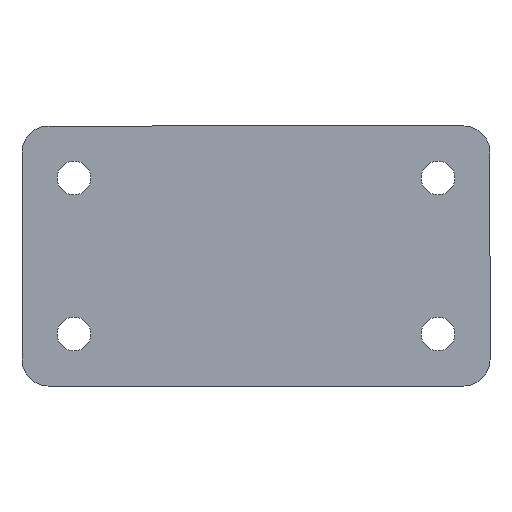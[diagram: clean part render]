
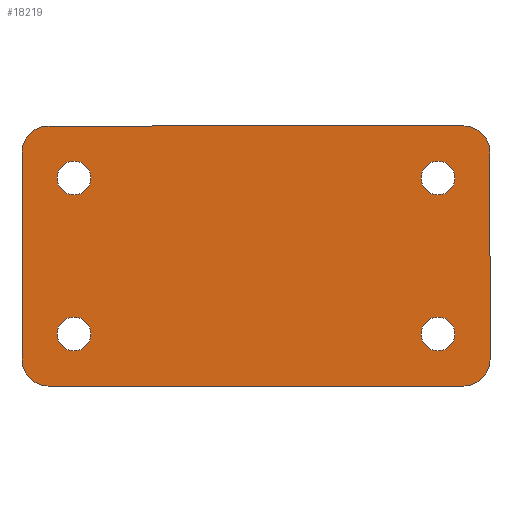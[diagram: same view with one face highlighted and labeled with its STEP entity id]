
A CAD part, front view. The second image highlights one B-rep face of the part: STEP entity #18219.
In plain terms, the highlighted planar face has unit normal (0, -1, 0).
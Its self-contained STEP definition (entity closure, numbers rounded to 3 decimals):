
#303 = CARTESIAN_POINT ( 'NONE',  ( 41.695, -121.715, 29.867 ) ) ;
#698 = LINE ( 'NONE', #819, #3264 ) ;
#757 = CIRCLE ( 'NONE', #7958, 10. ) ;
#774 = EDGE_CURVE ( 'NONE', #15452, #7022, #13302, .T. ) ;
#812 = CARTESIAN_POINT ( 'NONE',  ( 51.695, -121.715, 39.867 ) ) ;
#819 = CARTESIAN_POINT ( 'NONE',  ( 61.695, -121.715, 49.867 ) ) ;
#822 = DIRECTION ( 'NONE',  ( 1., 0., 0. ) ) ;
#850 = DIRECTION ( 'NONE',  ( 0., 1., 0. ) ) ;
#929 = DIRECTION ( 'NONE',  ( 0., -1., 0. ) ) ;
#987 = CIRCLE ( 'NONE', #13167, 6.5 ) ;
#1179 = CARTESIAN_POINT ( 'NONE',  ( -108.305, -121.715, 49.867 ) ) ;
#2025 = CIRCLE ( 'NONE', #13845, 6.5 ) ;
#2273 = DIRECTION ( 'NONE',  ( 1., 0., 0. ) ) ;
#2564 = VERTEX_POINT ( 'NONE', #16853 ) ;
#2694 = EDGE_LOOP ( 'NONE', ( #5686, #12026 ) ) ;
#2775 = CARTESIAN_POINT ( 'NONE',  ( 35.195, -121.715, 29.867 ) ) ;
#2970 = AXIS2_PLACEMENT_3D ( 'NONE', #24339, #24252, #3794 ) ;
#3116 = ORIENTED_EDGE ( 'NONE', *, *, #6583, .T. ) ;
#3247 = CIRCLE ( 'NONE', #10228, 6.5 ) ;
#3264 = VECTOR ( 'NONE', #13158, 1000. ) ;
#3356 = AXIS2_PLACEMENT_3D ( 'NONE', #14457, #6218, #10369 ) ;
#3618 = VERTEX_POINT ( 'NONE', #26019 ) ;
#3794 = DIRECTION ( 'NONE',  ( 1., 0., 0. ) ) ;
#3913 = CARTESIAN_POINT ( 'NONE',  ( -98.305, -121.715, -30.133 ) ) ;
#4245 = DIRECTION ( 'NONE',  ( 1., 0., 0. ) ) ;
#4314 = CARTESIAN_POINT ( 'NONE',  ( -98.305, -121.715, 29.867 ) ) ;
#4567 = CARTESIAN_POINT ( 'NONE',  ( 61.695, -121.715, -40.133 ) ) ;
#4760 = CARTESIAN_POINT ( 'NONE',  ( -118.305, -121.715, -40.133 ) ) ;
#4780 = FACE_BOUND ( 'NONE', #2694, .T. ) ;
#5528 = EDGE_CURVE ( 'NONE', #16047, #7555, #14682, .T. ) ;
#5627 = CARTESIAN_POINT ( 'NONE',  ( -118.305, -121.715, 39.867 ) ) ;
#5686 = ORIENTED_EDGE ( 'NONE', *, *, #11937, .T. ) ;
#5980 = EDGE_CURVE ( 'NONE', #21219, #21212, #2025, .T. ) ;
#6058 = ORIENTED_EDGE ( 'NONE', *, *, #7343, .T. ) ;
#6193 = CARTESIAN_POINT ( 'NONE',  ( 51.695, -121.715, 49.867 ) ) ;
#6218 = DIRECTION ( 'NONE',  ( 0., 1., 0. ) ) ;
#6282 = EDGE_CURVE ( 'NONE', #16047, #23813, #18814, .T. ) ;
#6384 = CARTESIAN_POINT ( 'NONE',  ( 41.695, -121.715, 29.867 ) ) ;
#6413 = VERTEX_POINT ( 'NONE', #2775 ) ;
#6551 = AXIS2_PLACEMENT_3D ( 'NONE', #812, #7175, #25741 ) ;
#6583 = EDGE_CURVE ( 'NONE', #8487, #3618, #12688, .T. ) ;
#6646 = EDGE_LOOP ( 'NONE', ( #25039, #6058, #22540, #6974, #23497, #26712, #6732, #11752 ) ) ;
#6732 = ORIENTED_EDGE ( 'NONE', *, *, #14580, .F. ) ;
#6833 = CARTESIAN_POINT ( 'NONE',  ( -118.305, -121.715, 49.867 ) ) ;
#6957 = LINE ( 'NONE', #6833, #22766 ) ;
#6974 = ORIENTED_EDGE ( 'NONE', *, *, #24036, .T. ) ;
#7022 = VERTEX_POINT ( 'NONE', #6193 ) ;
#7048 = CARTESIAN_POINT ( 'NONE',  ( -104.805, -121.715, -30.133 ) ) ;
#7175 = DIRECTION ( 'NONE',  ( 0., -1., 0. ) ) ;
#7204 = DIRECTION ( 'NONE',  ( 1., 0., 0. ) ) ;
#7261 = VERTEX_POINT ( 'NONE', #8515 ) ;
#7317 = CARTESIAN_POINT ( 'NONE',  ( -108.305, -121.715, 39.867 ) ) ;
#7343 = EDGE_CURVE ( 'NONE', #15452, #21062, #757, .T. ) ;
#7555 = VERTEX_POINT ( 'NONE', #4567 ) ;
#7958 = AXIS2_PLACEMENT_3D ( 'NONE', #7317, #23907, #21729 ) ;
#7965 = DIRECTION ( 'NONE',  ( 1., 0., 0. ) ) ;
#8180 = DIRECTION ( 'NONE',  ( 0., 1., 0. ) ) ;
#8487 = VERTEX_POINT ( 'NONE', #7048 ) ;
#8515 = CARTESIAN_POINT ( 'NONE',  ( 48.195, -121.715, 29.867 ) ) ;
#8610 = VERTEX_POINT ( 'NONE', #17775 ) ;
#9039 = CARTESIAN_POINT ( 'NONE',  ( -108.305, -121.715, -50.133 ) ) ;
#9610 = FACE_BOUND ( 'NONE', #12101, .T. ) ;
#9678 = CIRCLE ( 'NONE', #11565, 6.5 ) ;
#9886 = EDGE_CURVE ( 'NONE', #21212, #21219, #3247, .T. ) ;
#10228 = AXIS2_PLACEMENT_3D ( 'NONE', #25338, #850, #13198 ) ;
#10369 = DIRECTION ( 'NONE',  ( 1., 0., 0. ) ) ;
#10622 = CIRCLE ( 'NONE', #3356, 6.5 ) ;
#11565 = AXIS2_PLACEMENT_3D ( 'NONE', #6384, #8180, #22606 ) ;
#11752 = ORIENTED_EDGE ( 'NONE', *, *, #20756, .T. ) ;
#11882 = EDGE_LOOP ( 'NONE', ( #14386, #16090 ) ) ;
#11934 = DIRECTION ( 'NONE',  ( 0., 1., 0. ) ) ;
#11937 = EDGE_CURVE ( 'NONE', #8610, #18284, #10622, .T. ) ;
#11992 = EDGE_CURVE ( 'NONE', #6413, #7261, #20929, .T. ) ;
#12026 = ORIENTED_EDGE ( 'NONE', *, *, #13000, .T. ) ;
#12101 = EDGE_LOOP ( 'NONE', ( #12212, #23843 ) ) ;
#12212 = ORIENTED_EDGE ( 'NONE', *, *, #20596, .T. ) ;
#12282 = CIRCLE ( 'NONE', #6551, 10. ) ;
#12580 = CARTESIAN_POINT ( 'NONE',  ( -104.805, -121.715, 29.867 ) ) ;
#12688 = CIRCLE ( 'NONE', #17962, 6.5 ) ;
#13000 = EDGE_CURVE ( 'NONE', #18284, #8610, #16251, .T. ) ;
#13158 = DIRECTION ( 'NONE',  ( 0., 0., -1. ) ) ;
#13167 = AXIS2_PLACEMENT_3D ( 'NONE', #22805, #22904, #4245 ) ;
#13198 = DIRECTION ( 'NONE',  ( 1., 0., 0. ) ) ;
#13302 = LINE ( 'NONE', #14709, #20373 ) ;
#13532 = FACE_OUTER_BOUND ( 'NONE', #6646, .T. ) ;
#13845 = AXIS2_PLACEMENT_3D ( 'NONE', #4314, #14548, #22788 ) ;
#13951 = DIRECTION ( 'NONE',  ( 1., 0., 0. ) ) ;
#14075 = AXIS2_PLACEMENT_3D ( 'NONE', #303, #18927, #2273 ) ;
#14352 = DIRECTION ( 'NONE',  ( 0., 1., 0. ) ) ;
#14386 = ORIENTED_EDGE ( 'NONE', *, *, #9886, .T. ) ;
#14457 = CARTESIAN_POINT ( 'NONE',  ( 41.695, -121.715, -30.133 ) ) ;
#14548 = DIRECTION ( 'NONE',  ( 0., 1., 0. ) ) ;
#14580 = EDGE_CURVE ( 'NONE', #2564, #7555, #698, .T. ) ;
#14682 = CIRCLE ( 'NONE', #21538, 10. ) ;
#14709 = CARTESIAN_POINT ( 'NONE',  ( -118.305, -121.715, 49.867 ) ) ;
#14760 = CARTESIAN_POINT ( 'NONE',  ( -91.805, -121.715, 29.867 ) ) ;
#14813 = DIRECTION ( 'NONE',  ( 0., 0., 1. ) ) ;
#15447 = CARTESIAN_POINT ( 'NONE',  ( 51.695, -121.715, -40.133 ) ) ;
#15452 = VERTEX_POINT ( 'NONE', #1179 ) ;
#16047 = VERTEX_POINT ( 'NONE', #23301 ) ;
#16090 = ORIENTED_EDGE ( 'NONE', *, *, #5980, .T. ) ;
#16219 = CARTESIAN_POINT ( 'NONE',  ( 41.695, -121.715, -30.133 ) ) ;
#16224 = VECTOR ( 'NONE', #23505, 1000. ) ;
#16251 = CIRCLE ( 'NONE', #21674, 6.5 ) ;
#16853 = CARTESIAN_POINT ( 'NONE',  ( 61.695, -121.715, 39.867 ) ) ;
#17701 = FACE_BOUND ( 'NONE', #20188, .T. ) ;
#17775 = CARTESIAN_POINT ( 'NONE',  ( 48.195, -121.715, -30.133 ) ) ;
#17962 = AXIS2_PLACEMENT_3D ( 'NONE', #3913, #26349, #7965 ) ;
#18075 = CARTESIAN_POINT ( 'NONE',  ( 61.695, -121.715, 49.867 ) ) ;
#18219 = ADVANCED_FACE ( 'NONE', ( #9610, #4780, #17701, #18997, #13532 ), #24198, .F. ) ;
#18284 = VERTEX_POINT ( 'NONE', #22211 ) ;
#18385 = DIRECTION ( 'NONE',  ( 1., 0., 0. ) ) ;
#18814 = LINE ( 'NONE', #25389, #16224 ) ;
#18927 = DIRECTION ( 'NONE',  ( 0., 1., 0. ) ) ;
#18997 = FACE_BOUND ( 'NONE', #11882, .T. ) ;
#20188 = EDGE_LOOP ( 'NONE', ( #23102, #3116 ) ) ;
#20373 = VECTOR ( 'NONE', #822, 1000. ) ;
#20596 = EDGE_CURVE ( 'NONE', #7261, #6413, #9678, .T. ) ;
#20756 = EDGE_CURVE ( 'NONE', #2564, #7022, #12282, .T. ) ;
#20929 = CIRCLE ( 'NONE', #14075, 6.5 ) ;
#21062 = VERTEX_POINT ( 'NONE', #5627 ) ;
#21212 = VERTEX_POINT ( 'NONE', #14760 ) ;
#21219 = VERTEX_POINT ( 'NONE', #12580 ) ;
#21538 = AXIS2_PLACEMENT_3D ( 'NONE', #15447, #929, #7204 ) ;
#21674 = AXIS2_PLACEMENT_3D ( 'NONE', #16219, #14352, #18385 ) ;
#21729 = DIRECTION ( 'NONE',  ( 1., 0., 0. ) ) ;
#21909 = EDGE_CURVE ( 'NONE', #3618, #8487, #987, .T. ) ;
#22211 = CARTESIAN_POINT ( 'NONE',  ( 35.195, -121.715, -30.133 ) ) ;
#22540 = ORIENTED_EDGE ( 'NONE', *, *, #26311, .F. ) ;
#22581 = AXIS2_PLACEMENT_3D ( 'NONE', #18075, #11934, #13951 ) ;
#22606 = DIRECTION ( 'NONE',  ( 1., 0., 0. ) ) ;
#22766 = VECTOR ( 'NONE', #14813, 1000. ) ;
#22788 = DIRECTION ( 'NONE',  ( 1., 0., 0. ) ) ;
#22805 = CARTESIAN_POINT ( 'NONE',  ( -98.305, -121.715, -30.133 ) ) ;
#22904 = DIRECTION ( 'NONE',  ( 0., 1., 0. ) ) ;
#23102 = ORIENTED_EDGE ( 'NONE', *, *, #21909, .T. ) ;
#23301 = CARTESIAN_POINT ( 'NONE',  ( 51.695, -121.715, -50.133 ) ) ;
#23497 = ORIENTED_EDGE ( 'NONE', *, *, #6282, .F. ) ;
#23505 = DIRECTION ( 'NONE',  ( -1., 0., 0. ) ) ;
#23813 = VERTEX_POINT ( 'NONE', #9039 ) ;
#23843 = ORIENTED_EDGE ( 'NONE', *, *, #11992, .T. ) ;
#23907 = DIRECTION ( 'NONE',  ( 0., -1., 0. ) ) ;
#24036 = EDGE_CURVE ( 'NONE', #26333, #23813, #24758, .T. ) ;
#24198 = PLANE ( 'NONE',  #22581 ) ;
#24252 = DIRECTION ( 'NONE',  ( 0., -1., 0. ) ) ;
#24339 = CARTESIAN_POINT ( 'NONE',  ( -108.305, -121.715, -40.133 ) ) ;
#24758 = CIRCLE ( 'NONE', #2970, 10. ) ;
#25039 = ORIENTED_EDGE ( 'NONE', *, *, #774, .F. ) ;
#25338 = CARTESIAN_POINT ( 'NONE',  ( -98.305, -121.715, 29.867 ) ) ;
#25389 = CARTESIAN_POINT ( 'NONE',  ( -118.305, -121.715, -50.133 ) ) ;
#25741 = DIRECTION ( 'NONE',  ( 1., 0., 0. ) ) ;
#26019 = CARTESIAN_POINT ( 'NONE',  ( -91.805, -121.715, -30.133 ) ) ;
#26311 = EDGE_CURVE ( 'NONE', #26333, #21062, #6957, .T. ) ;
#26333 = VERTEX_POINT ( 'NONE', #4760 ) ;
#26349 = DIRECTION ( 'NONE',  ( 0., 1., 0. ) ) ;
#26712 = ORIENTED_EDGE ( 'NONE', *, *, #5528, .T. ) ;
